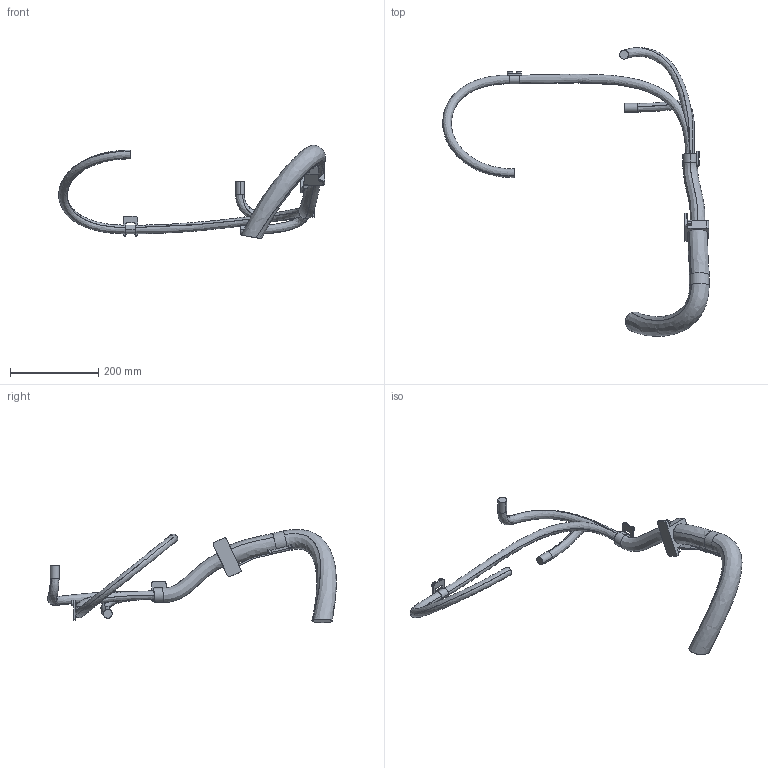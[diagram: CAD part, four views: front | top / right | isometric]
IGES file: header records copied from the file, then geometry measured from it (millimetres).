
Start section: SolidWorks IGES file using analytic representation for surfaces
Global section: file name: C:\Data\SAP_DOC\LW\IRB 6720\IRB6720-LID-SW_140kg-320_OC_01_SW_J\IRB6720-LID-SW_140kg-320_OC_01_IGES_J\IRB6720-LID_140kg-320_OC_00_LINK03m_CABLE.igs; native system: SolidWorks 2024; preprocessor: SolidWorks 2024; author: SEJOVAS3; date: 260610.141028; units: millimetre
Bounding box: 604.63 x 654.95 x 212 mm (x, y, z)
Surface area: 193432.6 mm2 (no closed solid volume)
Topology: 0 solids, 0 shells, 200 faces, 2629 edges, 2627 vertices
Faces by surface type: bspline 126, revolution 74
